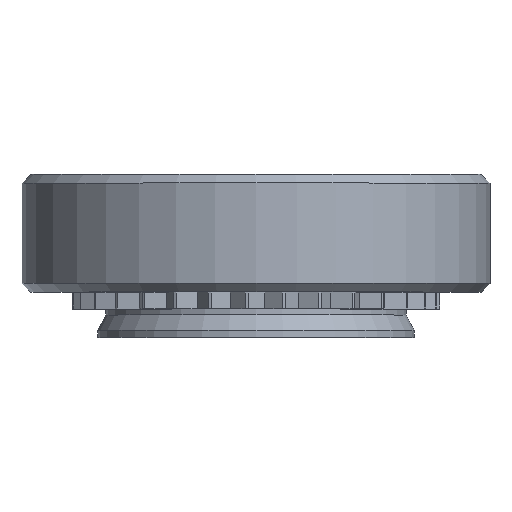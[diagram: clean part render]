
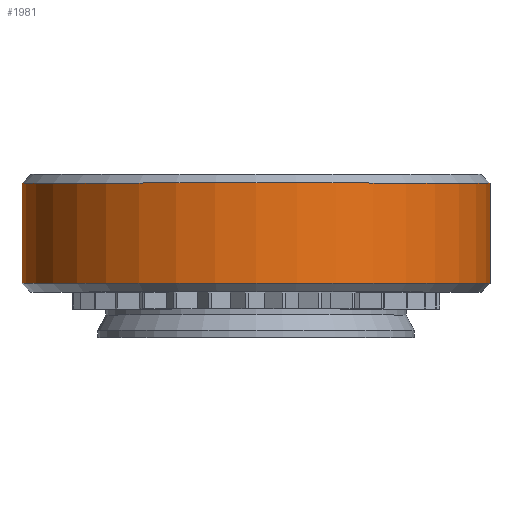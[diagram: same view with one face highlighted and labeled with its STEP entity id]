
A CAD part, top view. The second image highlights one B-rep face of the part: STEP entity #1981.
In plain terms, the highlighted cylindrical face has radius 3.975 mm (diameter 7.95 mm), a full revolution.
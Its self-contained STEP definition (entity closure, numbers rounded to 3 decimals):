
#85=CYLINDRICAL_SURFACE('',#2113,3.975);
#121=FACE_OUTER_BOUND('',#227,.T.);
#227=EDGE_LOOP('',(#1374,#1375,#1376,#1377,#1378,#1379));
#337=LINE('',#2897,#563);
#563=VECTOR('',#2305,3.975);
#789=CIRCLE('',#2111,3.975);
#790=CIRCLE('',#2112,3.975);
#791=CIRCLE('',#2114,3.975);
#792=CIRCLE('',#2115,3.975);
#866=VERTEX_POINT('',#2890);
#867=VERTEX_POINT('',#2892);
#868=VERTEX_POINT('',#2896);
#869=VERTEX_POINT('',#2898);
#1068=EDGE_CURVE('',#866,#867,#789,.T.);
#1069=EDGE_CURVE('',#867,#866,#790,.T.);
#1070=EDGE_CURVE('',#867,#868,#337,.T.);
#1071=EDGE_CURVE('',#869,#868,#791,.T.);
#1072=EDGE_CURVE('',#868,#869,#792,.T.);
#1374=ORIENTED_EDGE('',*,*,#1068,.F.);
#1375=ORIENTED_EDGE('',*,*,#1069,.F.);
#1376=ORIENTED_EDGE('',*,*,#1070,.T.);
#1377=ORIENTED_EDGE('',*,*,#1071,.F.);
#1378=ORIENTED_EDGE('',*,*,#1072,.F.);
#1379=ORIENTED_EDGE('',*,*,#1070,.F.);
#1981=ADVANCED_FACE('',(#121),#85,.T.);
#2111=AXIS2_PLACEMENT_3D('',#2893,#2299,#2300);
#2112=AXIS2_PLACEMENT_3D('',#2894,#2301,#2302);
#2113=AXIS2_PLACEMENT_3D('',#2895,#2303,#2304);
#2114=AXIS2_PLACEMENT_3D('',#2899,#2306,#2307);
#2115=AXIS2_PLACEMENT_3D('',#2900,#2308,#2309);
#2299=DIRECTION('center_axis',(0.,1.,0.));
#2300=DIRECTION('ref_axis',(1.,0.,0.));
#2301=DIRECTION('center_axis',(0.,1.,0.));
#2302=DIRECTION('ref_axis',(1.,0.,0.));
#2303=DIRECTION('center_axis',(0.,1.,0.));
#2304=DIRECTION('ref_axis',(-1.,0.,0.));
#2305=DIRECTION('',(0.,-1.,0.));
#2306=DIRECTION('center_axis',(0.,-1.,0.));
#2307=DIRECTION('ref_axis',(1.,0.,0.));
#2308=DIRECTION('center_axis',(0.,-1.,0.));
#2309=DIRECTION('ref_axis',(1.,0.,0.));
#2890=CARTESIAN_POINT('',(-3.975,2.62,0.));
#2892=CARTESIAN_POINT('',(3.975,2.62,0.));
#2893=CARTESIAN_POINT('Origin',(0.,2.62,0.));
#2894=CARTESIAN_POINT('Origin',(0.,2.62,0.));
#2895=CARTESIAN_POINT('Origin',(0.,1.77,0.));
#2896=CARTESIAN_POINT('',(3.975,0.92,0.));
#2897=CARTESIAN_POINT('',(3.975,1.77,0.));
#2898=CARTESIAN_POINT('',(-3.975,0.92,0.));
#2899=CARTESIAN_POINT('Origin',(0.,0.92,
0.));
#2900=CARTESIAN_POINT('Origin',(0.,0.92,
0.));
